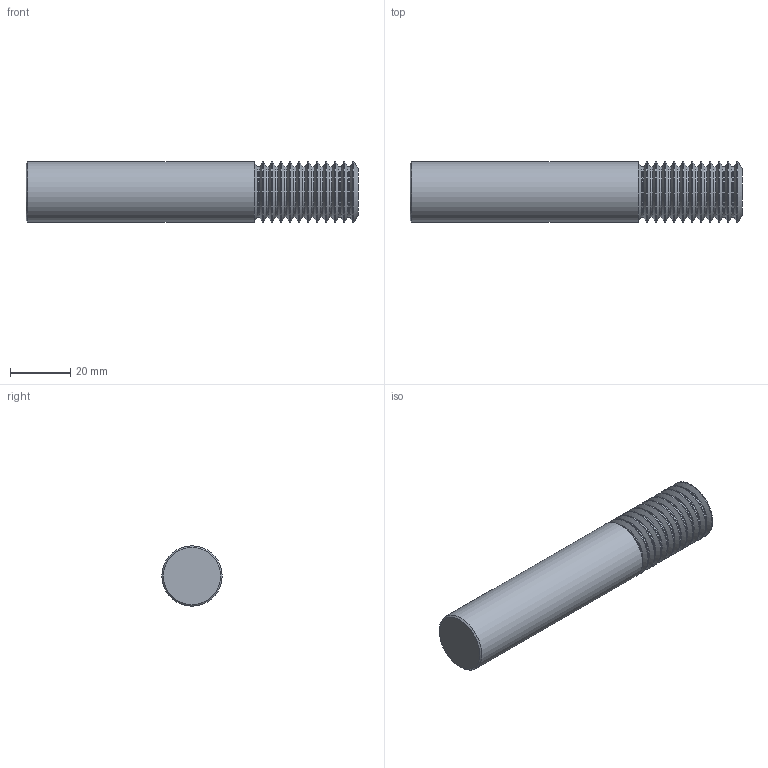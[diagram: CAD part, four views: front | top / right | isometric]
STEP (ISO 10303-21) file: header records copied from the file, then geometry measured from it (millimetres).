
FILE_DESCRIPTION(/* description */ (''),/* implementation_level */ '2;1');
FILE_NAME(/* name */ '00035659-TDM',/* time_stamp */ '2024-02-14T07:43:14+01:00',/* author */ (''),/* organization */ (''),/* preprocessor_version */ 'ST-DEVELOPER v16.5',/* originating_system */ 'HiCAD 2017 2201.0 Build 268',/* authorisation */ '');
FILE_SCHEMA (('AUTOMOTIVE_DESIGN { 1 0 10303 214 1 1 1 1 }'));
Length unit declared in the file: millimetre
Products named in the file (3): Root; ROTATIONSTEIL_0
Assembly tree (2 placements, depth 3):
  Root
    ROTATIONSTEIL_0
      ROTATIONSTEIL_0
Bounding box: 110 x 20 x 20 mm (x, y, z)
Volume: 32589.2 mm3; surface area: 8856.7 mm2
Topology: 2 solids, 2 shells, 74 faces, 144 edges, 74 vertices
Faces by surface type: cone 24, cylinder 24, torus 22, plane 4
Full cylindrical faces by diameter (mm): 16.702 x12, 19.95 x11, 20 x1
Entity records: 2244 total; most frequent: DIRECTION 300, CARTESIAN_POINT 222, AXIS2_PLACEMENT_3D 150, PRESENTATION_STYLE_ASSIGNMENT 146, COLOUR_RGB 146, DRAUGHTING_PRE_DEFINED_CURVE_FONT 144, CURVE_STYLE 144, OVER_RIDING_STYLED_ITEM 144
